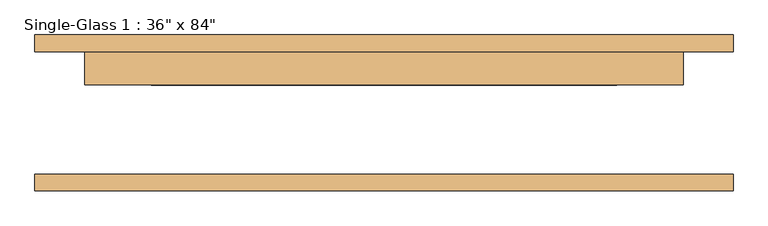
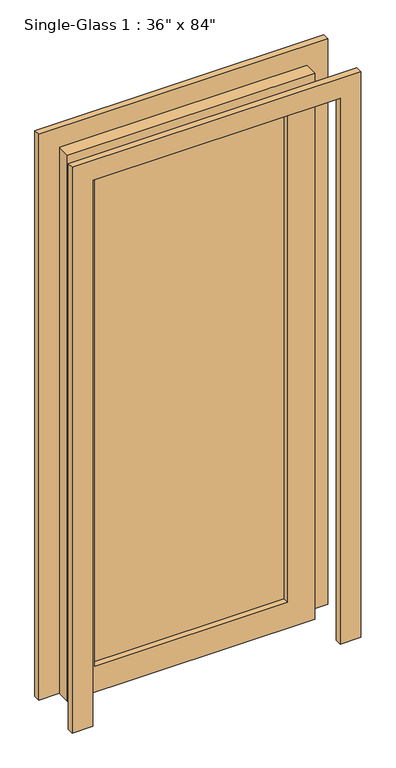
"""IFC4 building model written with IfcOpenShell, lengths in millimetres: door geometry."""

import ifcopenshell
import ifcopenshell.guid

model = None  # the IFC model being written
_history = None  # IfcOwnerHistory: only IFC2X3 demands one
_inside = {}  # id of a spatial element -> (the spatial element, [elements in it])
_under = {}  # id of a project, library or spatial element -> (it, [spatial elements below it])
_declared = {}  # id of a project -> (the project, [libraries it declares])
_typed = {}  # id of a type object -> (the type object, [elements of that type])
_made_of = {}  # id of a material, layer set ... -> (it, [elements and type objects made of it])


def new_model(schema):
    """Start an empty IFC model of exactly this schema.

    Asked for "IFC4X3", IfcOpenShell would pick the latest addendum, in which some entities
    have other attributes; the version numbers below select the first issue.
    IFC2X3 requires an IfcOwnerHistory on every rooted entity: one is made here for all.
    """
    global model, _history
    if schema == "IFC4X3":
        model = ifcopenshell.file(schema_version=(4, 3, 0, 0))
    else:
        model = ifcopenshell.file(schema=schema)
    _inside.clear()
    _under.clear()
    _declared.clear()
    _typed.clear()
    _made_of.clear()
    _history = None
    if model.schema == "IFC2X3":
        org = make("IfcOrganization", Name="unknown")
        user = make(
            "IfcPersonAndOrganization",
            ThePerson=make("IfcPerson", FamilyName="unknown"),
            TheOrganization=org,
        )
        app = make(
            "IfcApplication",
            ApplicationDeveloper=org,
            Version="unknown",
            ApplicationFullName="unknown",
            ApplicationIdentifier="unknown",
        )
        _history = make(
            "IfcOwnerHistory",
            OwningUser=user,
            OwningApplication=app,
            ChangeAction="ADDED",
            CreationDate=0,
        )
    return model


def make(cls, **values):
    """One entity of the class cls with the attributes given. An attribute that is None is left unset."""
    return model.create_entity(
        cls, **{name: value for name, value in values.items() if value is not None}
    )


def rooted(cls, **values):
    """An entity with a GlobalId (a new one), such as an element, a storey or a relation."""
    return make(cls, GlobalId=ifcopenshell.guid.new(), OwnerHistory=_history, **values)


def si_unit(unit_type, name, prefix=None):
    """IfcSIUnit, for example si_unit("LENGTHUNIT", "METRE", prefix="MILLI")."""
    return make("IfcSIUnit", UnitType=unit_type, Prefix=prefix, Name=name)


def assignment(units):
    """IfcUnitAssignment: the units of a project."""
    return None if units is None else make("IfcUnitAssignment", Units=units)


def point(xyz):
    """IfcCartesianPoint."""
    return None if xyz is None else make("IfcCartesianPoint", Coordinates=xyz)


def direction(xyz):
    """IfcDirection."""
    return None if xyz is None else make("IfcDirection", DirectionRatios=xyz)


def frame(location, z_axis=None, x_axis=None):
    """IfcAxis2Placement3D, a coordinate frame: its origin and axes. An axis left out is left unset."""
    return make(
        "IfcAxis2Placement3D",
        Location=point(location),
        Axis=direction(z_axis),
        RefDirection=direction(x_axis),
    )


def origin():
    """The frame at (0, 0, 0) with its axes left unset."""
    return frame((0.0, 0.0, 0.0))


def place(relative_to, where):
    """IfcLocalPlacement: puts the frame where relative to a parent placement (None: the world)."""
    return make(
        "IfcLocalPlacement", PlacementRelTo=relative_to, RelativePlacement=where
    )


def context(
    kind, dimensions, precision=None, world=None, true_north=None, identifier=None
):
    """IfcGeometricRepresentationContext, for example the 3D "Model" context."""
    return make(
        "IfcGeometricRepresentationContext",
        ContextIdentifier=identifier,
        ContextType=kind,
        CoordinateSpaceDimension=dimensions,
        Precision=precision,
        WorldCoordinateSystem=world,
        TrueNorth=true_north,
    )


def project(units=None, contexts=None):
    """IfcProject with its units and contexts."""
    return rooted(
        "IfcProject",
        Name="project",
        RepresentationContexts=contexts,
        UnitsInContext=assignment(units),
    )


def spatial(cls, under=None, at=None, **own):
    """A site, building, storey or space (cls), placed at a placement, below another one or the project."""
    s = rooted(cls, ObjectPlacement=at, **own)
    if under is not None:
        _under.setdefault(under.id(), (under, []))[1].append(s)
    return s


def polyline(points):
    """IfcPolyline through the points."""
    return make("IfcPolyline", Points=[point(p) for p in points])


def outline(outer, holes=None, kind="AREA"):
    """IfcArbitraryClosedProfileDef: a profile drawn as a closed curve; with holes, ...WithVoids."""
    if holes is None:
        return make("IfcArbitraryClosedProfileDef", ProfileType=kind, OuterCurve=outer)
    return make(
        "IfcArbitraryProfileDefWithVoids",
        ProfileType=kind,
        OuterCurve=outer,
        InnerCurves=holes,
    )


def extrude(swept, where, along, depth):
    """IfcExtrudedAreaSolid: the profile swept, set in the frame where, extruded along a direction by depth."""
    return make(
        "IfcExtrudedAreaSolid",
        SweptArea=swept,
        Position=where,
        ExtrudedDirection=direction(along),
        Depth=depth,
    )


def shape(context_of_items, identifier, shape_type, items):
    """IfcShapeRepresentation: the items that make up one representation, for example the "Body"."""
    return make(
        "IfcShapeRepresentation",
        ContextOfItems=context_of_items,
        RepresentationIdentifier=identifier,
        RepresentationType=shape_type,
        Items=items,
    )


def source(mapping_origin, context_of_items, identifier, shape_type, items):
    """IfcRepresentationMap: a shape defined once, which mapped items show again and again."""
    return make(
        "IfcRepresentationMap",
        MappingOrigin=mapping_origin,
        MappedRepresentation=shape(context_of_items, identifier, shape_type, items),
    )


def transform(
    local_origin,
    x_axis=None,
    y_axis=None,
    z_axis=None,
    scale=None,
    scale2=None,
    scale3=None,
    uniform=True,
):
    """IfcCartesianTransformationOperator3D, or its non-uniform kind. x_axis, y_axis, z_axis: its Axis1, 2, 3."""
    if uniform:
        return make(
            "IfcCartesianTransformationOperator3D",
            Axis1=direction(x_axis),
            Axis2=direction(y_axis),
            LocalOrigin=point(local_origin),
            Scale=scale,
            Axis3=direction(z_axis),
        )
    return make(
        "IfcCartesianTransformationOperator3DnonUniform",
        Axis1=direction(x_axis),
        Axis2=direction(y_axis),
        LocalOrigin=point(local_origin),
        Scale=scale,
        Axis3=direction(z_axis),
        Scale2=scale2,
        Scale3=scale3,
    )


def mapped(mapping_source, mapping_target):
    """IfcMappedItem: shows the shape of a source again, moved by a transform."""
    return make(
        "IfcMappedItem", MappingSource=mapping_source, MappingTarget=mapping_target
    )


def made_of(thing, what):
    """Note that an element or type object is made of a material, layer set ...; save() writes the relation."""
    if what is not None:
        _made_of.setdefault(what.id(), (what, []))[1].append(thing)
    return thing


def element(
    cls,
    number,
    at=None,
    inside=None,
    cuts=None,
    type_object=None,
    material=None,
    context=None,
    identifier="Body",
    shape_type=None,
    held_by="IfcProductDefinitionShape",
    body=None,
    shapes=None,
    **own,
):
    """One element of the class cls, such as IfcWall. Its Tag is "e" and its number.

    at: its placement. inside: the storey or other place that contains it. cuts: it is an
    opening in that element (IfcRelVoidsElement). A single representation is given by context,
    identifier, shape_type and body (its items); several are given by shapes. held_by: the class
    of the entity that holds the representations. save() writes the other relations.
    """
    e = rooted(cls, Tag="e%d" % number, ObjectPlacement=at, **own)
    if body is not None:
        shapes = [shape(context, identifier, shape_type, body)]
    if shapes is not None:
        e.Representation = make(held_by, Representations=shapes)
    if inside is not None:
        _inside.setdefault(inside.id(), (inside, []))[1].append(e)
    if cuts is not None:
        rooted(
            "IfcRelVoidsElement", RelatingBuildingElement=cuts, RelatedOpeningElement=e
        )
    if type_object is not None:
        _typed.setdefault(type_object.id(), (type_object, []))[1].append(e)
    return made_of(e, material)


def aggregate(whole, parts):
    """IfcRelAggregates: a whole, such as a stair, and the parts it consists of."""
    return rooted("IfcRelAggregates", RelatingObject=whole, RelatedObjects=parts)


def save(model, path):
    """Write the relations noted so far, then the file.

    IfcRelAggregates (storeys below a building ...), IfcRelContainedInSpatialStructure (elements
    in a storey), IfcRelDefinesByType, IfcRelAssociatesMaterial and IfcRelDeclares: one each for
    every whole, place, type object, material and project.
    """
    for whole, parts in _under.values():
        aggregate(whole, parts)
    for where, things in _inside.values():
        rooted(
            "IfcRelContainedInSpatialStructure",
            RelatedElements=things,
            RelatingStructure=where,
        )
    for kind, things in _typed.values():
        rooted("IfcRelDefinesByType", RelatedObjects=things, RelatingType=kind)
    for what, things in _made_of.values():
        rooted("IfcRelAssociatesMaterial", RelatedObjects=things, RelatingMaterial=what)
    for by, libraries in _declared.values():
        rooted("IfcRelDeclares", RelatingContext=by, RelatedDefinitions=libraries)
    model.write(path)


def door_2264a989(model_context):
    return source(origin(), model_context, "Body", "SweptSolid", [
        extrude(outline(polyline([(2133.6, 457.2), (0.0, 457.2), (0.0, 533.4), (2209.8, 533.4), (2209.8, -533.4), (0.0, -533.4), (0.0, -457.2), (2133.6, -457.2), (2133.6, 457.2)])), frame((0.0, -119.0625, 0.0), z_axis=(0.0, 1.0, 0.0), x_axis=(0.0, 0.0, 1.0)), (0.0, 0.0, 1.0), 25.4),
        extrude(outline(polyline([(2133.6, 457.2), (0.0, 457.2), (0.0, 533.4), (2209.8, 533.4), (2209.8, -533.4), (0.0, -533.4), (0.0, -457.2), (2133.6, -457.2), (2133.6, 457.2)])), frame((0.0, 93.6625, 0.0), z_axis=(0.0, 1.0, 0.0), x_axis=(0.0, 0.0, 1.0)), (0.0, 0.0, 1.0), 25.4),
        extrude(outline(polyline([(355.6, 65.0875), (-355.6, 65.0875), (-355.6, 71.4375), (355.6, 71.4375), (355.6, 65.0875)])), frame((0.0, 0.0, 101.6), z_axis=(0.0, 0.0, 1.0), x_axis=(1.0, 0.0, 0.0)), (0.0, 0.0, 1.0), 1930.4),
        extrude(outline(polyline([(2133.6, 457.2), (2133.6, -457.2), (0.0, -457.2), (0.0, 457.2), (2133.6, 457.2)]), holes=[polyline([(2032.0, -355.6), (2032.0, 355.6), (101.6, 355.6), (101.6, -355.6), (2032.0, -355.6)])]), frame((0.0, 42.8625, 0.0), z_axis=(0.0, 1.0, 0.0), x_axis=(0.0, 0.0, 1.0)), (0.0, 0.0, 1.0), 50.8),
    ])


if __name__ == "__main__":
    model = new_model("IFC4")
    model_context = context("Model", 3, world=origin())
    ifc_project = project(units=[si_unit("LENGTHUNIT", "METRE", prefix="MILLI")], contexts=[model_context])
    site = spatial("IfcSite", under=ifc_project)
    building = spatial("IfcBuilding", under=site)
    placement = place(None, origin())
    door_shape = door_2264a989(model_context)
    element("IfcDoor", 1, ObjectType="Single-Glass 1 : 36\" x 84\"", at=placement, inside=building, context=model_context, shape_type="MappedRepresentation", body=[
        mapped(door_shape, transform((0.0, 0.0, 0.0), x_axis=(1.0, 0.0, 0.0), y_axis=(0.0, 1.0, 0.0), z_axis=(0.0, 0.0, 1.0))),
    ])
    save(model, "model.ifc")
